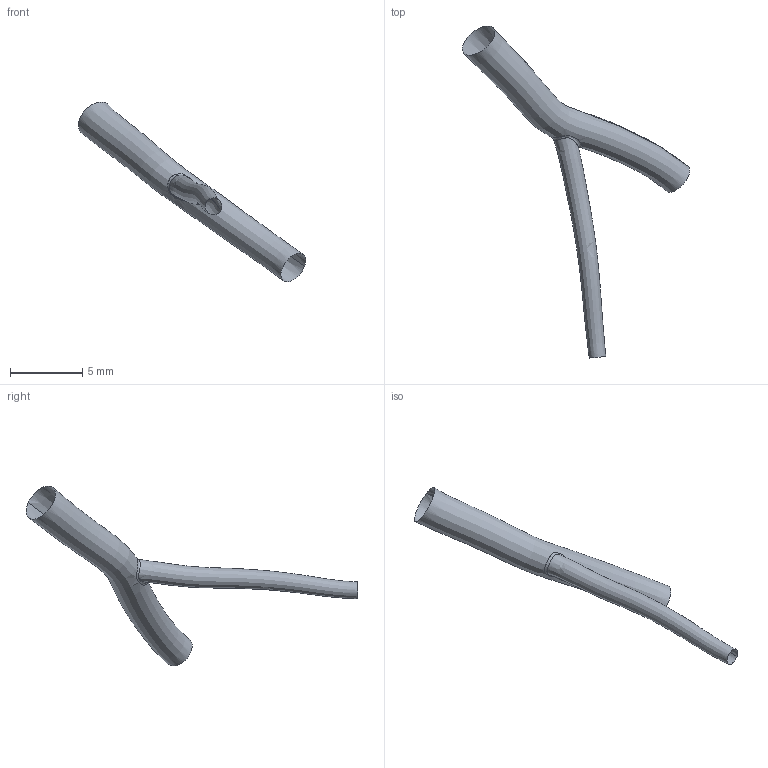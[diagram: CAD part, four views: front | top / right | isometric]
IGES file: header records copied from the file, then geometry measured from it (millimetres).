
Global section: file name: C:\Documents and Settings\Administrator\Desktop\FDA-Pig\Domestic LCA\Pig_000005\diag.ed.igs; native system: Rhinoceros ( May 19 2006 ); preprocessor: Trout Lake IGES 012 May 19 2006; date: 111205.183307; units: centimetre
Bounding box: 15.76 x 23.02 x 12.48 mm (x, y, z)
Surface area: 215.5 mm2 (no closed solid volume)
Topology: 0 solids, 0 shells, 3 faces, 43 edges, 40 vertices
Faces by surface type: bspline 3
